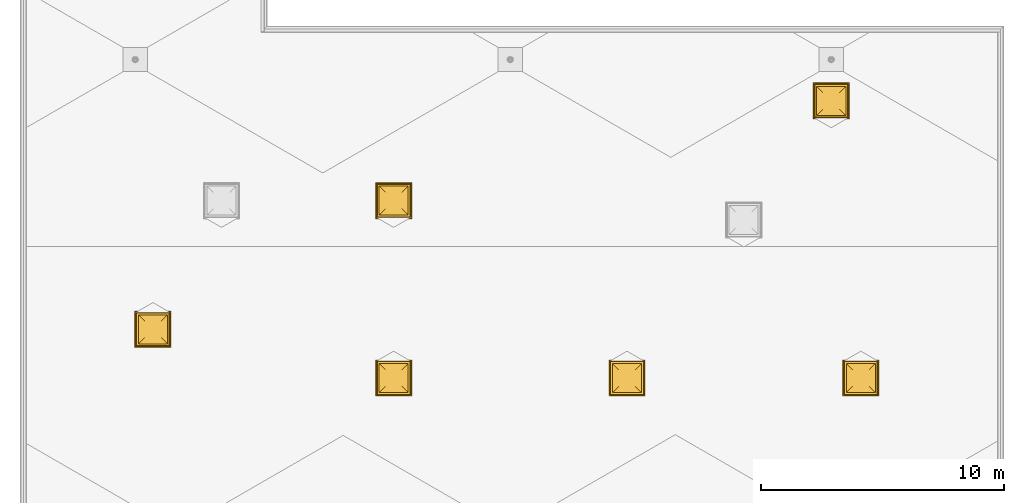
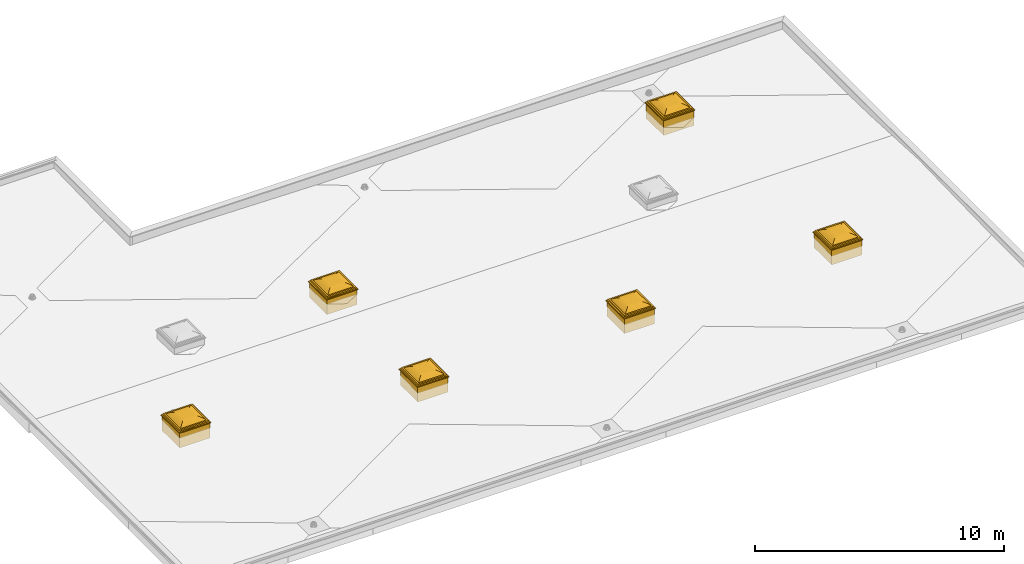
# One storey, part 3 of 5: 6 windows.
"""IFC2X3 building model written with IfcOpenShell, lengths in millimetres."""

from ifc_helpers import new_model, entity, si_unit, converted_unit, derived_unit, direction, frame, origin, place, context, subcontext, project, spatial, faceted_brep, source, transform, mapped, material, material_list, type_object, type_shapes, element, save


model = new_model("IFC2X3")

# Units and contexts
model_context = context("Model", 3, precision=0.01, world=origin(), true_north=direction((6.12303176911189e-17, 1.0)))
body_context = subcontext(model_context, "Body", "Model", "MODEL_VIEW")
ifc_project = project(units=[si_unit("LENGTHUNIT", "METRE", prefix="MILLI"), si_unit("AREAUNIT", "SQUARE_METRE"), si_unit("VOLUMEUNIT", "CUBIC_METRE"), converted_unit("PLANEANGLEUNIT", "DEGREE", entity("IfcRatioMeasure", 0.0174532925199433), si_unit("PLANEANGLEUNIT", "RADIAN"), dimensions=[0, 0, 0, 0, 0, 0, 0]), si_unit("MASSUNIT", "GRAM", prefix="KILO"), derived_unit("MASSDENSITYUNIT", [(si_unit("MASSUNIT", "GRAM", prefix="KILO"), 1), (si_unit("LENGTHUNIT", "METRE"), -3)]), si_unit("TIMEUNIT", "SECOND"), si_unit("FREQUENCYUNIT", "HERTZ"), si_unit("THERMODYNAMICTEMPERATUREUNIT", "DEGREE_CELSIUS"), derived_unit("THERMALTRANSMITTANCEUNIT", [(si_unit("MASSUNIT", "GRAM", prefix="KILO"), 1), (si_unit("THERMODYNAMICTEMPERATUREUNIT", "KELVIN"), -1), (si_unit("TIMEUNIT", "SECOND"), -3)]), derived_unit("VOLUMETRICFLOWRATEUNIT", [(si_unit("LENGTHUNIT", "METRE"), 3), (si_unit("TIMEUNIT", "SECOND"), -1)]), si_unit("ELECTRICCURRENTUNIT", "AMPERE"), si_unit("ELECTRICVOLTAGEUNIT", "VOLT"), si_unit("POWERUNIT", "WATT"), si_unit("FORCEUNIT", "NEWTON", prefix="KILO"), si_unit("ILLUMINANCEUNIT", "LUX"), si_unit("LUMINOUSFLUXUNIT", "LUMEN"), si_unit("LUMINOUSINTENSITYUNIT", "CANDELA"), derived_unit("USERDEFINED", [(si_unit("MASSUNIT", "GRAM", prefix="KILO"), -1), (si_unit("LENGTHUNIT", "METRE"), -2), (si_unit("TIMEUNIT", "SECOND"), 3), (si_unit("LUMINOUSFLUXUNIT", "LUMEN"), 1)]), derived_unit("LINEARVELOCITYUNIT", [(si_unit("LENGTHUNIT", "METRE"), 1), (si_unit("TIMEUNIT", "SECOND"), -1)]), si_unit("PRESSUREUNIT", "PASCAL"), derived_unit("USERDEFINED", [(si_unit("LENGTHUNIT", "METRE"), -2), (si_unit("MASSUNIT", "GRAM", prefix="KILO"), 1), (si_unit("TIMEUNIT", "SECOND"), -2)])], contexts=[model_context])

# Site, building, storey
site_placement = place(None, origin())
site = spatial("IfcSite", under=ifc_project, at=site_placement, Name="Default", CompositionType="ELEMENT")
building_placement = place(site_placement, origin())
building = spatial("IfcBuilding", under=site, at=building_placement, CompositionType="ELEMENT")
storey_placement = place(building_placement, frame((0.0, 0.0, 8000.0)))
storey = spatial("IfcBuildingStorey", under=building, at=storey_placement, Name="KATUS", CompositionType="ELEMENT", Elevation=8000.0)

# Windows
ifc_material_1 = material(Name="akrüül-klaas, 3-kihiline")
ifc_material_2 = material(Name="soojustatud teras-jalam")
ifc_material_list_1 = material_list([ifc_material_1, ifc_material_2])
ifc_material_list_2 = material_list([ifc_material_1, ifc_material_2])
window_style_1 = type_object("IfcWindowStyle", Name="SL01_suitsuluuk 1200x1200", ConstructionType="NOTDEFINED", OperationType="NOTDEFINED", ParameterTakesPrecedence=False, Sizeable=False, material=ifc_material_list_2)
shared_shape_1 = source(origin(), body_context, "Body", "Brep", [
    faceted_brep([(281.700000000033, -281.700000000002, 654.910168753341), (281.700000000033, -281.700000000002, 648.560168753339), (281.700000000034, 281.700000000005, 648.560168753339), (281.700000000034, 281.700000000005, 654.910168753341), (-281.699999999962, -281.700000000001, 654.910168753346), (-281.699999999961, 281.700000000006, 654.910168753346), (-281.699999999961, 281.700000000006, 648.560168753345), (-281.699999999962, -281.700000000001, 648.560168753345)], [[[0, 1, 2, 3]], [[4, 5, 6, 7]], [[1, 0, 4, 7]], [[2, 1, 7, 6]], [[3, 2, 6, 5]], [[0, 3, 5, 4]]]),
    faceted_brep([(-599.19999999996, -599.2, 484.927298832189), (-599.19999999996, -599.199999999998, 510.0), (-599.19999999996, 599.200000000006, 510.0), (-599.19999999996, 599.200000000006, 484.927298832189), (-281.699999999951, -281.699999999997, 654.910168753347), (-281.69999999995, 281.699999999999, 654.910168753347), (-350.823937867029, 350.823937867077, 640.296429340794), (-350.823937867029, -350.823937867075, 640.296429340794), (-417.927749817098, 417.927749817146, 618.188544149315), (-417.927749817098, -417.927749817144, 618.188544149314), (-482.201579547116, 482.201579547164, 588.853326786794), (-482.201579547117, -482.201579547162, 588.853326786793), (-542.869724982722, 542.86972498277, 552.64481542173), (-542.869724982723, -542.869724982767, 552.644815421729), (599.200000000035, 599.200000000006, 510.0), (599.200000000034, 599.200000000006, 484.927298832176), (281.700000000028, 281.699999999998, 654.910168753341), (350.823937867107, 350.823937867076, 640.296429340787), (417.927749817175, 417.927749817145, 618.188544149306), (482.201579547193, 482.201579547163, 588.853326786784), (542.869724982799, 542.869724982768, 552.644815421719), (599.200000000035, -599.2, 510.0), (599.200000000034, -599.2, 484.927298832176), (281.700000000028, -281.699999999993, 654.910168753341), (350.823937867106, -350.823937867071, 640.296429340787), (417.927749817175, -417.92774981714, 618.188544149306), (482.201579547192, -482.201579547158, 588.853326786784), (542.869724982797, -542.869724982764, 552.644815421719), (-593.576133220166, -593.576133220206, 508.360547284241), (-593.576133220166, -593.576133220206, 484.927298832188), (-593.576133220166, 593.576133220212, 484.927298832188), (-593.576133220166, 593.576133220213, 508.360547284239), (-537.988117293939, -537.98811729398, 549.552576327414), (-537.988117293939, 537.988117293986, 549.552576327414), (-478.296763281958, -478.296763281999, 584.534757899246), (-478.296763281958, 478.296763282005, 584.534757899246), (-415.192902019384, 415.192902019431, 612.902229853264), (-415.192902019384, -415.192902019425, 612.902229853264), (-349.40685859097, -349.406858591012, 634.326684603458), (-349.40685859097, 349.406858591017, 634.326684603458), (-281.699999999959, -281.700000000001, 648.560168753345), (-281.699999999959, 281.700000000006, 648.560168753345), (593.57613322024, 593.576133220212, 484.927298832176), (593.576133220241, 593.576133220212, 508.360547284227), (537.988117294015, 537.988117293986, 549.552576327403), (478.296763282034, 478.296763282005, 584.534757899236), (415.192902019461, 415.192902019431, 612.902229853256), (349.406858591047, 349.406858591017, 634.326684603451), (281.700000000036, 281.700000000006, 648.560168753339), (593.57613322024, -593.576133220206, 484.927298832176), (593.576133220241, -593.576133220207, 508.360547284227), (537.988117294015, -537.98811729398, 549.552576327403), (478.296763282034, -478.296763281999, 584.534757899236), (415.192902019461, -415.192902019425, 612.902229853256), (349.406858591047, -349.406858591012, 634.326684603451), (281.700000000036, -281.700000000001, 648.560168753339)], [[[0, 1, 2, 3]], [[4, 5, 6, 7]], [[7, 6, 8, 9]], [[8, 10, 11, 9]], [[11, 10, 12, 13]], [[13, 12, 2, 1]], [[3, 2, 14, 15]], [[5, 16, 17, 6]], [[6, 17, 18, 8]], [[18, 19, 10, 8]], [[10, 19, 20, 12]], [[12, 20, 14, 2]], [[15, 14, 21, 22]], [[16, 23, 24, 17]], [[17, 24, 25, 18]], [[25, 26, 19, 18]], [[19, 26, 27, 20]], [[20, 27, 21, 14]], [[22, 21, 1, 0]], [[23, 4, 7, 24]], [[24, 7, 9, 25]], [[9, 11, 26, 25]], [[26, 11, 13, 27]], [[27, 13, 1, 21]], [[28, 29, 30, 31]], [[32, 28, 31, 33]], [[34, 32, 33, 35]], [[35, 36, 37, 34]], [[38, 37, 36, 39]], [[40, 38, 39, 41]], [[4, 40, 41, 5]], [[31, 30, 42, 43]], [[33, 31, 43, 44]], [[35, 33, 44, 45]], [[45, 46, 36, 35]], [[39, 36, 46, 47]], [[41, 39, 47, 48]], [[5, 41, 48, 16]], [[43, 42, 49, 50]], [[44, 43, 50, 51]], [[45, 44, 51, 52]], [[52, 53, 46, 45]], [[47, 46, 53, 54]], [[48, 47, 54, 55]], [[16, 48, 55, 23]], [[22, 49, 42]], [[49, 22, 29]], [[42, 15, 22]], [[0, 29, 22]], [[29, 0, 30]], [[3, 30, 0]], [[30, 3, 15]], [[15, 42, 30]], [[50, 49, 29, 28]], [[51, 50, 28, 32]], [[52, 51, 32, 34]], [[34, 37, 53, 52]], [[54, 53, 37, 38]], [[55, 54, 38, 40]], [[23, 55, 40, 4]]]),
    faceted_brep([(695.200000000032, 695.200000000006, 468.0), (670.951288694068, 670.951288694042, 510.0), (670.951288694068, -670.951288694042, 510.0), (695.200000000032, -695.200000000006, 468.0), (655.200000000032, 655.200000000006, 440.0), (655.200000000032, 655.200000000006, 468.0), (655.200000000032, -655.200000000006, 468.0), (655.200000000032, -655.200000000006, 440.0), (730.200000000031, 730.200000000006, 417.0), (730.200000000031, 730.200000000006, 440.0), (730.200000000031, -730.200000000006, 440.0), (730.200000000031, -730.200000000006, 417.0), (748.221344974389, 748.221344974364, 404.381318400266), (748.221344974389, -748.221344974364, 404.381318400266), (746.989806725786, 746.989806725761, 403.149780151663), (746.989806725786, -746.989806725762, 403.149780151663), (727.20964285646, 727.209642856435, 417.0), (727.20964285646, -727.209642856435, 417.0), (699.200000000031, 699.200000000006, 400.0), (699.200000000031, 699.200000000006, 417.0), (699.200000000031, -699.200000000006, 417.0), (699.200000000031, -699.200000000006, 400.0), (599.200000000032, 599.200000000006, 510.0), (599.200000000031, 599.200000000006, 400.0), (599.200000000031, -599.200000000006, 400.0), (599.200000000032, -599.200000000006, 510.0), (-670.951288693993, -670.951288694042, 510.0), (-695.199999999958, -695.200000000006, 468.0), (-655.199999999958, -655.200000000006, 468.0), (-655.199999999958, -655.200000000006, 440.0), (-730.199999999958, -730.200000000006, 440.0), (-730.199999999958, -730.200000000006, 417.0), (-748.221344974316, -748.221344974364, 404.381318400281), (-746.989806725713, -746.989806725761, 403.149780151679), (-727.209642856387, -727.209642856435, 417.0), (-699.199999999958, -699.200000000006, 417.0), (-699.199999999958, -699.200000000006, 400.0), (-599.199999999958, -599.200000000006, 400.0), (-599.199999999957, -599.200000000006, 510.0), (-670.951288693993, 670.951288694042, 510.0), (-695.199999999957, 695.200000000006, 468.0), (-655.199999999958, 655.200000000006, 468.0), (-655.199999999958, 655.200000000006, 440.0), (-730.199999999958, 730.200000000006, 440.0), (-730.199999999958, 730.200000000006, 417.0), (-748.221344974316, 748.221344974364, 404.381318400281), (-746.989806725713, 746.989806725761, 403.149780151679), (-727.209642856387, 727.209642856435, 417.0), (-699.199999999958, 699.200000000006, 417.0), (-699.199999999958, 699.200000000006, 400.0), (-599.199999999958, 599.200000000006, 400.0), (-599.199999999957, 599.200000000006, 510.0)], [[[0, 1, 2, 3]], [[4, 5, 6, 7]], [[8, 9, 10, 11]], [[12, 8, 11, 13]], [[14, 12, 13, 15]], [[16, 14, 15, 17]], [[18, 19, 20, 21]], [[22, 23, 24, 25]], [[3, 2, 26, 27]], [[7, 6, 28, 29]], [[11, 10, 30, 31]], [[13, 11, 31, 32]], [[15, 13, 32, 33]], [[17, 15, 33, 34]], [[21, 20, 35, 36]], [[25, 24, 37, 38]], [[27, 26, 39, 40]], [[29, 28, 41, 42]], [[31, 30, 43, 44]], [[32, 31, 44, 45]], [[33, 32, 45, 46]], [[34, 33, 46, 47]], [[36, 35, 48, 49]], [[38, 37, 50, 51]], [[25, 38, 51, 22], [1, 39, 26, 2]], [[40, 39, 1, 0]], [[3, 27, 40, 0], [5, 41, 28, 6]], [[42, 41, 5, 4]], [[7, 29, 42, 4], [9, 43, 30, 10]], [[44, 43, 9, 8]], [[45, 44, 8, 12]], [[46, 45, 12, 14]], [[47, 46, 14, 16]], [[17, 34, 47, 16], [19, 48, 35, 20]], [[49, 48, 19, 18]], [[21, 36, 49, 18], [23, 50, 37, 24]], [[51, 50, 23, 22]]], outer=[[True], [True], [True], [True], [True], [True], [True], [True], [True], [True], [True], [True], [True], [True], [True], [True], [True], [True], [True], [True], [True], [True], [True], [True], [False, True], [True], [True, False], [True], [False, True], [True], [True], [True], [True], [True, False], [True], [True, False], [True]]),
    faceted_brep([(-600.0, 600.0, 400.0), (-600.0, 600.0, -350.0), (600.0, 600.0, -350.0), (600.0, 600.0, 400.0), (600.0, -600.0, -350.0), (600.0, -600.0, 400.0), (-600.0, -600.0, -350.0), (-600.0, -600.0, 400.0), (700.0, 700.0, -350.0), (700.0, -700.0, -350.0), (-700.0, -700.0, -350.0), (-700.0, 700.0, -350.0), (-700.0, 700.0, 400.0), (700.0, 700.0, 400.0), (700.0, -700.0, 400.0), (-700.0, -700.0, 400.0)], [[[0, 1, 2, 3]], [[3, 2, 4, 5]], [[5, 4, 6, 7]], [[7, 6, 1, 0]], [[1, 6, 4, 2], [8, 9, 10, 11]], [[11, 12, 13, 8]], [[8, 13, 14, 9]], [[9, 14, 15, 10]], [[3, 5, 7, 0], [12, 15, 14, 13]], [[10, 15, 12, 11]]], outer=[[True], [True], [True], [True], [False, True], [True], [True], [True], [False, True], [True]]),
])
type_shapes(window_style_1, [shared_shape_1])
window_1_placement = place(storey_placement, frame((14879.9978270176, 14800.0, 220.0)))
element("IfcWindow", 1, at=window_1_placement, inside=storey, type_object=window_style_1, material=ifc_material_list_1, Name="Suitsueemaldusluuk:SL01_suitsuluuk 1200x1200", ObjectType="SL01_suitsuluuk 1200x1200", OverallHeight=1436.0999999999, OverallWidth=1496.44268994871, context=body_context, shape_type="MappedRepresentation", body=[
    mapped(shared_shape_1, transform((0.0, 0.0, 0.0), scale=1.0)),
])
ifc_material_list_3 = material_list([ifc_material_1, ifc_material_2])
window_2_placement = place(storey_placement, frame((32879.9978270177, 18900.0, 220.0)))
element("IfcWindow", 2, at=window_2_placement, inside=storey, type_object=window_style_1, material=ifc_material_list_3, Name="Suitsueemaldusluuk:SL01_suitsuluuk 1200x1200", ObjectType="SL01_suitsuluuk 1200x1200", OverallHeight=1436.0999999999, OverallWidth=1496.44268994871, context=body_context, shape_type="MappedRepresentation", body=[
    mapped(shared_shape_1, transform((0.0, 0.0, 0.0), scale=1.0)),
])
ifc_material_list_4 = material_list([ifc_material_1, ifc_material_2])
ifc_material_list_5 = material_list([ifc_material_1, ifc_material_2])
window_style_2 = type_object("IfcWindowStyle", Name="SL01_suitsuluuk 1200x1200", ConstructionType="NOTDEFINED", OperationType="NOTDEFINED", ParameterTakesPrecedence=False, Sizeable=False, material=ifc_material_list_5)
shared_shape_2 = source(origin(), body_context, "Body", "Brep", [
    faceted_brep([(281.700000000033, -281.700000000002, 784.910168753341), (281.700000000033, -281.700000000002, 778.560168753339), (281.700000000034, 281.700000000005, 778.560168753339), (281.700000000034, 281.700000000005, 784.910168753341), (-281.699999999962, -281.700000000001, 784.910168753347), (-281.699999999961, 281.700000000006, 784.910168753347), (-281.699999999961, 281.700000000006, 778.560168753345), (-281.699999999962, -281.700000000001, 778.560168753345)], [[[0, 1, 2, 3]], [[4, 5, 6, 7]], [[1, 0, 4, 7]], [[2, 1, 7, 6]], [[3, 2, 6, 5]], [[0, 3, 5, 4]]]),
    faceted_brep([(-599.19999999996, -599.2, 614.927298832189), (-599.19999999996, -599.199999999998, 640.0), (-599.19999999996, 599.200000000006, 640.0), (-599.19999999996, 599.200000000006, 614.927298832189), (-281.699999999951, -281.699999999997, 784.910168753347), (-281.69999999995, 281.699999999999, 784.910168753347), (-350.823937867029, 350.823937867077, 770.296429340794), (-350.823937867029, -350.823937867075, 770.296429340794), (-417.927749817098, 417.927749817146, 748.188544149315), (-417.927749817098, -417.927749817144, 748.188544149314), (-482.201579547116, 482.201579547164, 718.853326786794), (-482.201579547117, -482.201579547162, 718.853326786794), (-542.869724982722, 542.86972498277, 682.64481542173), (-542.869724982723, -542.869724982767, 682.644815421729), (599.200000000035, 599.200000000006, 640.0), (599.200000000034, 599.200000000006, 614.927298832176), (281.700000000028, 281.699999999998, 784.910168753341), (350.823937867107, 350.823937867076, 770.296429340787), (417.927749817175, 417.927749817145, 748.188544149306), (482.201579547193, 482.201579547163, 718.853326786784), (542.869724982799, 542.869724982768, 682.644815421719), (599.200000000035, -599.2, 640.0), (599.200000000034, -599.2, 614.927298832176), (281.700000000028, -281.699999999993, 784.910168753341), (350.823937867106, -350.823937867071, 770.296429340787), (417.927749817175, -417.92774981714, 748.188544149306), (482.201579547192, -482.201579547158, 718.853326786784), (542.869724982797, -542.869724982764, 682.644815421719), (-593.576133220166, -593.576133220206, 638.360547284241), (-593.576133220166, -593.576133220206, 614.927298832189), (-593.576133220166, 593.576133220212, 614.927298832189), (-593.576133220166, 593.576133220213, 638.360547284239), (-537.988117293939, -537.98811729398, 679.552576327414), (-537.988117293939, 537.988117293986, 679.552576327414), (-478.296763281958, -478.296763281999, 714.534757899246), (-478.296763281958, 478.296763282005, 714.534757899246), (-415.192902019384, 415.192902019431, 742.902229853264), (-415.192902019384, -415.192902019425, 742.902229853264), (-349.40685859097, -349.406858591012, 764.326684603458), (-349.40685859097, 349.406858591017, 764.326684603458), (-281.699999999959, -281.700000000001, 778.560168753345), (-281.699999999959, 281.700000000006, 778.560168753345), (593.57613322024, 593.576133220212, 614.927298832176), (593.576133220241, 593.576133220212, 638.360547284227), (537.988117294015, 537.988117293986, 679.552576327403), (478.296763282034, 478.296763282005, 714.534757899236), (415.192902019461, 415.192902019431, 742.902229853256), (349.406858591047, 349.406858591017, 764.326684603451), (281.700000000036, 281.700000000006, 778.56016875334), (593.57613322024, -593.576133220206, 614.927298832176), (593.576133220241, -593.576133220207, 638.360547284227), (537.988117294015, -537.98811729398, 679.552576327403), (478.296763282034, -478.296763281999, 714.534757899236), (415.192902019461, -415.192902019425, 742.902229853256), (349.406858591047, -349.406858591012, 764.326684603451), (281.700000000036, -281.700000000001, 778.56016875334)], [[[0, 1, 2, 3]], [[4, 5, 6, 7]], [[7, 6, 8, 9]], [[8, 10, 11, 9]], [[11, 10, 12, 13]], [[13, 12, 2, 1]], [[3, 2, 14, 15]], [[5, 16, 17, 6]], [[6, 17, 18, 8]], [[18, 19, 10, 8]], [[10, 19, 20, 12]], [[12, 20, 14, 2]], [[15, 14, 21, 22]], [[16, 23, 24, 17]], [[17, 24, 25, 18]], [[25, 26, 19, 18]], [[19, 26, 27, 20]], [[20, 27, 21, 14]], [[22, 21, 1, 0]], [[23, 4, 7, 24]], [[24, 7, 9, 25]], [[9, 11, 26, 25]], [[26, 11, 13, 27]], [[27, 13, 1, 21]], [[28, 29, 30, 31]], [[32, 28, 31, 33]], [[34, 32, 33, 35]], [[35, 36, 37, 34]], [[38, 37, 36, 39]], [[40, 38, 39, 41]], [[4, 40, 41, 5]], [[31, 30, 42, 43]], [[33, 31, 43, 44]], [[35, 33, 44, 45]], [[45, 46, 36, 35]], [[39, 36, 46, 47]], [[41, 39, 47, 48]], [[5, 41, 48, 16]], [[43, 42, 49, 50]], [[44, 43, 50, 51]], [[45, 44, 51, 52]], [[52, 53, 46, 45]], [[47, 46, 53, 54]], [[48, 47, 54, 55]], [[16, 48, 55, 23]], [[22, 49, 42]], [[49, 22, 29]], [[42, 15, 22]], [[0, 29, 22]], [[29, 0, 30]], [[3, 30, 0]], [[30, 3, 15]], [[15, 42, 30]], [[50, 49, 29, 28]], [[51, 50, 28, 32]], [[52, 51, 32, 34]], [[34, 37, 53, 52]], [[54, 53, 37, 38]], [[55, 54, 38, 40]], [[23, 55, 40, 4]]]),
    faceted_brep([(695.200000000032, 695.200000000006, 598.0), (670.951288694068, 670.951288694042, 640.0), (670.951288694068, -670.951288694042, 640.0), (695.200000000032, -695.200000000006, 598.0), (655.200000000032, 655.200000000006, 570.0), (655.200000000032, 655.200000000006, 598.0), (655.200000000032, -655.200000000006, 598.0), (655.200000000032, -655.200000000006, 570.0), (730.200000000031, 730.200000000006, 547.0), (730.200000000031, 730.200000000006, 570.0), (730.200000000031, -730.200000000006, 570.0), (730.200000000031, -730.200000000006, 547.0), (748.221344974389, 748.221344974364, 534.381318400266), (748.221344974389, -748.221344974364, 534.381318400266), (746.989806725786, 746.989806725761, 533.149780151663), (746.989806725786, -746.989806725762, 533.149780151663), (727.20964285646, 727.209642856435, 547.0), (727.20964285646, -727.209642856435, 547.0), (699.200000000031, 699.200000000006, 530.0), (699.200000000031, 699.200000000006, 547.0), (699.200000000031, -699.200000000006, 547.0), (699.200000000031, -699.200000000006, 530.0), (599.200000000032, 599.200000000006, 640.0), (599.200000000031, 599.200000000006, 530.0), (599.200000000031, -599.200000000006, 530.0), (599.200000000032, -599.200000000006, 640.0), (-670.951288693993, -670.951288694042, 640.0), (-695.199999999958, -695.200000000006, 598.0), (-655.199999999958, -655.200000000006, 598.0), (-655.199999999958, -655.200000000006, 570.0), (-730.199999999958, -730.200000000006, 570.0), (-730.199999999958, -730.200000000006, 547.0), (-748.221344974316, -748.221344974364, 534.381318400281), (-746.989806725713, -746.989806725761, 533.149780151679), (-727.209642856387, -727.209642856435, 547.0), (-699.199999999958, -699.200000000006, 547.0), (-699.199999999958, -699.200000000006, 530.0), (-599.199999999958, -599.200000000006, 530.0), (-599.199999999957, -599.200000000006, 640.0), (-670.951288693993, 670.951288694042, 640.0), (-695.199999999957, 695.200000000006, 598.0), (-655.199999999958, 655.200000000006, 598.0), (-655.199999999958, 655.200000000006, 570.0), (-730.199999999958, 730.200000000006, 570.0), (-730.199999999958, 730.200000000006, 547.0), (-748.221344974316, 748.221344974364, 534.381318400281), (-746.989806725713, 746.989806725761, 533.149780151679), (-727.209642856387, 727.209642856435, 547.0), (-699.199999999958, 699.200000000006, 547.0), (-699.199999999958, 699.200000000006, 530.0), (-599.199999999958, 599.200000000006, 530.0), (-599.199999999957, 599.200000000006, 640.0)], [[[0, 1, 2, 3]], [[4, 5, 6, 7]], [[8, 9, 10, 11]], [[12, 8, 11, 13]], [[14, 12, 13, 15]], [[16, 14, 15, 17]], [[18, 19, 20, 21]], [[22, 23, 24, 25]], [[3, 2, 26, 27]], [[7, 6, 28, 29]], [[11, 10, 30, 31]], [[13, 11, 31, 32]], [[15, 13, 32, 33]], [[17, 15, 33, 34]], [[21, 20, 35, 36]], [[25, 24, 37, 38]], [[27, 26, 39, 40]], [[29, 28, 41, 42]], [[31, 30, 43, 44]], [[32, 31, 44, 45]], [[33, 32, 45, 46]], [[34, 33, 46, 47]], [[36, 35, 48, 49]], [[38, 37, 50, 51]], [[25, 38, 51, 22], [1, 39, 26, 2]], [[40, 39, 1, 0]], [[3, 27, 40, 0], [5, 41, 28, 6]], [[42, 41, 5, 4]], [[7, 29, 42, 4], [9, 43, 30, 10]], [[44, 43, 9, 8]], [[45, 44, 8, 12]], [[46, 45, 12, 14]], [[47, 46, 14, 16]], [[17, 34, 47, 16], [19, 48, 35, 20]], [[49, 48, 19, 18]], [[21, 36, 49, 18], [23, 50, 37, 24]], [[51, 50, 23, 22]]], outer=[[True], [True], [True], [True], [True], [True], [True], [True], [True], [True], [True], [True], [True], [True], [True], [True], [True], [True], [True], [True], [True], [True], [True], [True], [False, True], [True], [True, False], [True], [False, True], [True], [True], [True], [True], [True, False], [True], [True, False], [True]]),
    faceted_brep([(-600.0, 600.0, 530.0), (-600.0, 600.0, -220.0), (600.0, 600.0, -220.0), (600.0, 600.0, 530.0), (600.0, -600.0, -220.0), (600.0, -600.0, 530.0), (-600.0, -600.0, -220.0), (-600.0, -600.0, 530.0), (700.0, 700.0, -220.0), (700.0, -700.0, -220.0), (-700.0, -700.0, -220.0), (-700.0, 700.0, -220.0), (-700.0, 700.0, 530.0), (700.0, 700.0, 530.0), (700.0, -700.0, 530.0), (-700.0, -700.0, 530.0)], [[[0, 1, 2, 3]], [[3, 2, 4, 5]], [[5, 4, 6, 7]], [[7, 6, 1, 0]], [[1, 6, 4, 2], [8, 9, 10, 11]], [[11, 12, 13, 8]], [[8, 13, 14, 9]], [[9, 14, 15, 10]], [[3, 5, 7, 0], [12, 15, 14, 13]], [[10, 15, 12, 11]]], outer=[[True], [True], [True], [True], [False, True], [True], [True], [True], [False, True], [True]]),
])
type_shapes(window_style_2, [shared_shape_2])
window_3_placement = place(storey_placement, frame((14879.9978270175, 7500.0, 220.0)))
element("IfcWindow", 3, at=window_3_placement, inside=storey, type_object=window_style_2, material=ifc_material_list_4, Name="Suitsueemaldusluuk:SL01_suitsuluuk 1200x1200", ObjectType="SL01_suitsuluuk 1200x1200", OverallHeight=1306.0999999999, OverallWidth=1496.44268994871, context=body_context, shape_type="MappedRepresentation", body=[
    mapped(shared_shape_2, transform((0.0, 0.0, 0.0), scale=1.0)),
])
ifc_material_list_6 = material_list([ifc_material_1, ifc_material_2])
window_4_placement = place(storey_placement, frame((24480.0, 7500.0, 220.0)))
element("IfcWindow", 4, at=window_4_placement, inside=storey, type_object=window_style_2, material=ifc_material_list_6, Name="Suitsueemaldusluuk:SL01_suitsuluuk 1200x1200", ObjectType="SL01_suitsuluuk 1200x1200", OverallHeight=1306.0999999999, OverallWidth=1496.44268994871, context=body_context, shape_type="MappedRepresentation", body=[
    mapped(shared_shape_2, transform((0.0, 0.0, 0.0), scale=1.0)),
])
ifc_material_list_7 = material_list([ifc_material_1, ifc_material_2])
window_5_placement = place(storey_placement, frame((34100.0, 7500.0, 220.0)))
element("IfcWindow", 5, at=window_5_placement, inside=storey, type_object=window_style_2, material=ifc_material_list_7, Name="Suitsueemaldusluuk:SL01_suitsuluuk 1200x1200", ObjectType="SL01_suitsuluuk 1200x1200", OverallHeight=1306.0999999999, OverallWidth=1496.44268994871, context=body_context, shape_type="MappedRepresentation", body=[
    mapped(shared_shape_2, transform((0.0, 0.0, 0.0), scale=1.0)),
])
ifc_material_list_8 = material_list([ifc_material_1, ifc_material_2])
window_6_placement = place(storey_placement, frame((4980.0, 9500.0, 220.0)))
element("IfcWindow", 6, at=window_6_placement, inside=storey, type_object=window_style_2, material=ifc_material_list_8, Name="Suitsueemaldusluuk:SL01_suitsuluuk 1200x1200", ObjectType="SL01_suitsuluuk 1200x1200", OverallHeight=1306.0999999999, OverallWidth=1496.44268994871, context=body_context, shape_type="MappedRepresentation", body=[
    mapped(shared_shape_2, transform((0.0, 0.0, 0.0), scale=1.0)),
])

save(model, "model.ifc")
